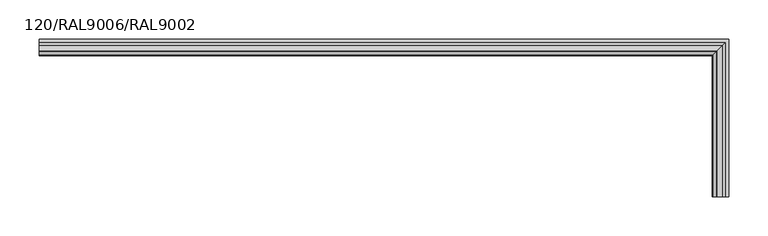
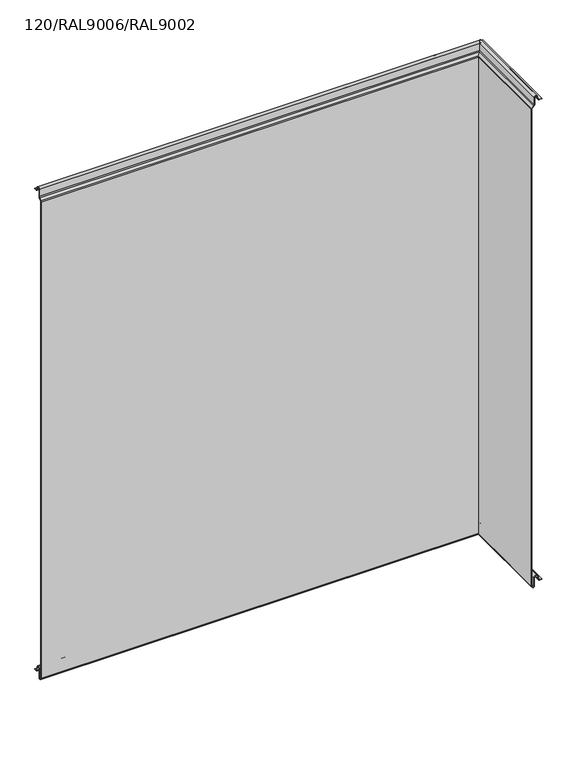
"""IFC4 building model written with IfcOpenShell, lengths in millimetres: plate geometry, TR_C_H_FHL_Corner_Tr_A : 120/RAL9006/RAL9002."""

from ifc_helpers import new_model, si_unit, frame, origin, place, context, project, spatial, polyline, circle_curve, ellipse_curve, source, transform, mapped, element, save
from ifc_brep_helpers import plane_surface, cylinder_surface, revolved_surface, advanced_brep


def plate_120_ral9006_ral9002_0d4cb285(model_context):
    return source(origin(), model_context, "Body", "AdvancedBrep", [
        advanced_brep(
        [(370.0, -300.0, 989.8218254), (370.0, -300.0, 0.4813708), (370.8054564, -300.0, -1.4631728), (372.6711418, -300.0, -3.3288582), (376.0, -300.0, -1.95), (376.0, -300.0, 15.65), (382.8475867, -300.0, 16.2490862), (384.1839721, -300.0, 8.6700685), (386.0551068, -300.0, 7.1), (391.0, -300.0, 7.1), (391.0, -300.0, 7.9), (386.0551068, -300.0, 7.9), (384.9718183, -300.0, 8.808987), (383.635433, -300.0, 16.3880048), (375.2, -300.0, 15.65), (375.2, -300.0, -1.95), (373.2368272, -300.0, -2.7631728), (371.3711418, -300.0, -0.8974874), (370.8, -300.0, 0.4813708), (370.8, -300.0, 989.8218254), (371.4443651, -300.0, 991.3774603), (375.8334524, -300.0, 995.7665476), (376.8, -300.0, 998.1), (376.8, -300.0, 1012.85), (381.662779, -300.0, 1013.275438), (382.4060919, -300.0, 1009.0599008), (386.8869672, -300.0, 1005.3), (391.0, -300.0, 1005.3), (391.0, -300.0, 1006.1), (386.8869672, -300.0, 1006.1), (383.1939382, -300.0, 1009.1988193), (382.4506252, -300.0, 1013.4143566), (376.0, -300.0, 1012.85), (376.0, -300.0, 998.1), (375.267767, -300.0, 996.332233), (370.8786797, -300.0, 991.9431458), (370.0, -120.0, 0.4813708), (370.0, -120.0, 989.8218254), (-490.0, -120.0, 989.8218254), (-490.0, -120.0, 0.4813708), (370.8, -119.2, 989.8218254), (370.8, -119.2, 0.4813708), (-490.0, -119.2, 0.4813708), (-490.0, -119.2, 989.8218254), (-490.0, -119.1213203, 991.9431458), (-490.0, -114.732233, 996.332233), (-490.0, -114.0, 998.1), (-490.0, -114.0, 1012.85), (-490.0, -107.5493748, 1013.4143566), (-490.0, -106.8060618, 1009.1988193), (-490.0, -103.1130328, 1006.1), (-490.0, -99.0, 1006.1), (-490.0, -99.0, 1005.3), (-490.0, -103.1130328, 1005.3), (-490.0, -107.5939081, 1009.0599008), (-490.0, -108.337221, 1013.275438), (-490.0, -113.2, 1012.85), (-490.0, -113.2, 998.1), (-490.0, -114.1665476, 995.7665476), (-490.0, -118.5556349, 991.3774603), (-490.0, -118.6288582, -0.8974874), (-490.0, -116.7631728, -2.7631728), (-490.0, -114.8, -1.95), (-490.0, -114.8, 15.65), (-490.0, -106.364567, 16.3880048), (-490.0, -105.0281817, 8.808987), (-490.0, -103.9448932, 7.9), (-490.0, -99.0, 7.9), (-490.0, -99.0, 7.1), (-490.0, -103.9448932, 7.1), (-490.0, -105.8160279, 8.6700685), (-490.0, -107.1524133, 16.2490862), (-490.0, -114.0, 15.65), (-490.0, -114.0, -1.95), (-490.0, -117.3288582, -3.3288582), (-490.0, -119.1945436, -1.4631728), (370.8054564, -119.1945436, -1.4631728), (372.6711418, -117.3288582, -3.3288582), (376.0, -114.0, -1.95), (376.0, -114.0, 15.65), (382.8475867, -107.1524133, 16.2490862), (384.1839721, -105.8160279, 8.6700685), (386.0551068, -103.9448932, 7.1), (391.0, -99.0, 7.1), (391.0, -99.0, 7.9), (386.0551068, -103.9448932, 7.9), (384.9718183, -105.0281817, 8.808987), (383.635433, -106.364567, 16.3880048), (375.2, -114.8, 15.65), (375.2, -114.8, -1.95), (373.2368272, -116.7631728, -2.7631728), (371.3711418, -118.6288582, -0.8974874), (371.4443651, -118.5556349, 991.3774603), (375.8334524, -114.1665476, 995.7665476), (376.8, -113.2, 998.1), (376.8, -113.2, 1012.85), (381.662779, -108.337221, 1013.275438), (382.4060919, -107.5939081, 1009.0599008), (386.8869672, -103.1130328, 1005.3), (391.0, -99.0, 1005.3), (391.0, -99.0, 1006.1), (386.8869672, -103.1130328, 1006.1), (383.1939382, -106.8060618, 1009.1988193), (382.4506252, -107.5493748, 1013.4143566), (376.0, -114.0, 1012.85), (376.0, -114.0, 998.1), (375.267767, -114.732233, 996.332233), (370.8786797, -119.1213203, 991.9431458)],
        [
            (0, 1),
            (1, 2, circle_curve(frame((372.75, -300.0, 0.4813708), z_axis=(0.0, -1.0, 0.0), x_axis=(-1.0, 0.0, 0.0)), 2.75)),
            (2, 3),
            (3, 4, circle_curve(frame((374.05, -300.0, -1.95), z_axis=(0.0, -1.0, 0.0), x_axis=(-1.0, 0.0, 0.0)), 1.95)),
            (4, 5),
            (5, 6, circle_curve(frame((379.45, -300.0, 15.65), z_axis=(0.0, 1.0, 0.0), x_axis=(-1.0, 0.0, 0.0)), 3.45)),
            (6, 7),
            (7, 8, circle_curve(frame((386.0551068, -300.0, 9.0), z_axis=(0.0, -1.0, 0.0), x_axis=(-1.0, 0.0, 0.0)), 1.9)),
            (8, 9),
            (9, 10),
            (10, 11),
            (11, 12, circle_curve(frame((386.0551068, -300.0, 9.0), z_axis=(0.0, 1.0, 0.0), x_axis=(-1.0, 0.0, 0.0)), 1.1)),
            (12, 13),
            (13, 14, circle_curve(frame((379.45, -300.0, 15.65), z_axis=(0.0, -1.0, 0.0), x_axis=(-1.0, 0.0, 0.0)), 4.25)),
            (14, 15),
            (15, 16, circle_curve(frame((374.05, -300.0, -1.95), z_axis=(0.0, 1.0, 0.0), x_axis=(-1.0, 0.0, 0.0)), 1.15)),
            (16, 17),
            (17, 18, circle_curve(frame((372.75, -300.0, 0.4813708), z_axis=(0.0, 1.0, 0.0), x_axis=(-1.0, 0.0, 0.0)), 1.95)),
            (18, 19),
            (19, 20, circle_curve(frame((373.0, -300.0, 989.8218254), z_axis=(0.0, 1.0, 0.0), x_axis=(-1.0, 0.0, 0.0)), 2.2)),
            (20, 21),
            (21, 22, circle_curve(frame((373.5, -300.0, 998.1), z_axis=(0.0, -1.0, 0.0), x_axis=(-1.0, 0.0, 0.0)), 3.3)),
            (22, 23),
            (23, 24, circle_curve(frame((379.25, -300.0, 1012.85), z_axis=(0.0, 1.0, 0.0), x_axis=(-1.0, 0.0, 0.0)), 2.45)),
            (24, 25),
            (25, 26, circle_curve(frame((386.8869672, -300.0, 1009.85), z_axis=(0.0, -1.0, 0.0), x_axis=(-1.0, 0.0, 0.0)), 4.55)),
            (26, 27),
            (27, 28),
            (28, 29),
            (29, 30, circle_curve(frame((386.8869672, -300.0, 1009.85), z_axis=(0.0, 1.0, 0.0), x_axis=(-1.0, 0.0, 0.0)), 3.75)),
            (30, 31),
            (31, 32, circle_curve(frame((379.25, -300.0, 1012.85), z_axis=(0.0, -1.0, 0.0), x_axis=(-1.0, 0.0, 0.0)), 3.25)),
            (32, 33),
            (33, 34, circle_curve(frame((373.5, -300.0, 998.1), z_axis=(0.0, 1.0, 0.0), x_axis=(-1.0, 0.0, 0.0)), 2.5)),
            (34, 35),
            (35, 0, circle_curve(frame((373.0, -300.0, 989.8218254), z_axis=(0.0, -1.0, 0.0), x_axis=(-1.0, 0.0, 0.0)), 3.0)),
            (36, 37),
            (37, 38),
            (38, 39),
            (39, 36),
            (40, 41),
            (41, 42),
            (42, 43),
            (43, 40),
            (38, 44, circle_curve(frame((-490.0, -117.0, 989.8218254), z_axis=(-1.0, 0.0, 0.0), x_axis=(0.0, -1.0, 0.0)), 3.0)),
            (44, 45),
            (45, 46, circle_curve(frame((-490.0, -116.5, 998.1), z_axis=(1.0, 0.0, 0.0), x_axis=(0.0, -1.0, 0.0)), 2.5)),
            (46, 47),
            (47, 48, circle_curve(frame((-490.0, -110.75, 1012.85), z_axis=(-1.0, 0.0, 0.0), x_axis=(0.0, -1.0, 0.0)), 3.25)),
            (48, 49),
            (49, 50, circle_curve(frame((-490.0, -103.1130328, 1009.85), z_axis=(1.0, 0.0, 0.0), x_axis=(0.0, -1.0, 0.0)), 3.75)),
            (50, 51),
            (51, 52),
            (52, 53),
            (53, 54, circle_curve(frame((-490.0, -103.1130328, 1009.85), z_axis=(-1.0, 0.0, 0.0), x_axis=(0.0, -1.0, 0.0)), 4.55)),
            (54, 55),
            (55, 56, circle_curve(frame((-490.0, -110.75, 1012.85), z_axis=(1.0, 0.0, 0.0), x_axis=(0.0, -1.0, 0.0)), 2.45)),
            (56, 57),
            (57, 58, circle_curve(frame((-490.0, -116.5, 998.1), z_axis=(-1.0, 0.0, 0.0), x_axis=(0.0, -1.0, 0.0)), 3.3)),
            (58, 59),
            (59, 43, circle_curve(frame((-490.0, -117.0, 989.8218254), z_axis=(1.0, 0.0, 0.0), x_axis=(0.0, -1.0, 0.0)), 2.2)),
            (42, 60, circle_curve(frame((-490.0, -117.25, 0.4813708), z_axis=(1.0, 0.0, 0.0), x_axis=(0.0, -1.0, 0.0)), 1.95)),
            (60, 61),
            (61, 62, circle_curve(frame((-490.0, -115.95, -1.95), z_axis=(1.0, 0.0, 0.0), x_axis=(0.0, -1.0, 0.0)), 1.15)),
            (62, 63),
            (63, 64, circle_curve(frame((-490.0, -110.55, 15.65), z_axis=(-1.0, 0.0, 0.0), x_axis=(0.0, -1.0, 0.0)), 4.25)),
            (64, 65),
            (65, 66, circle_curve(frame((-490.0, -103.9448932, 9.0), z_axis=(1.0, 0.0, 0.0), x_axis=(0.0, -1.0, 0.0)), 1.1)),
            (66, 67),
            (67, 68),
            (68, 69),
            (69, 70, circle_curve(frame((-490.0, -103.9448932, 9.0), z_axis=(-1.0, 0.0, 0.0), x_axis=(0.0, -1.0, 0.0)), 1.9)),
            (70, 71),
            (71, 72, circle_curve(frame((-490.0, -110.55, 15.65), z_axis=(1.0, 0.0, 0.0), x_axis=(0.0, -1.0, 0.0)), 3.45)),
            (72, 73),
            (73, 74, circle_curve(frame((-490.0, -115.95, -1.95), z_axis=(-1.0, 0.0, 0.0), x_axis=(0.0, -1.0, 0.0)), 1.95)),
            (74, 75),
            (75, 39, circle_curve(frame((-490.0, -117.25, 0.4813708), z_axis=(-1.0, 0.0, 0.0), x_axis=(0.0, -1.0, 0.0)), 2.75)),
            (0, 37),
            (36, 1),
            (18, 41),
            (40, 19),
            (36, 76, ellipse_curve(frame((372.75, -117.25, 0.4813708), z_axis=(0.7071067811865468, -0.7071067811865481, 0.0), x_axis=(-0.7071067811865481, -0.7071067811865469, 0.0)), 3.8890873, 2.75)),
            (76, 2),
            (76, 77),
            (77, 3),
            (77, 78, ellipse_curve(frame((374.05, -115.95, -1.95), z_axis=(0.7071067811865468, -0.7071067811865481, 0.0), x_axis=(-0.7071067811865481, -0.7071067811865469, 0.0)), 2.7577164, 1.95)),
            (78, 4),
            (78, 79),
            (79, 5),
            (79, 80, ellipse_curve(frame((379.45, -110.55, 15.65), z_axis=(-0.7071067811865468, 0.7071067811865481, 0.0), x_axis=(0.7071067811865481, 0.7071067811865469, 0.0)), 4.8790368, 3.45)),
            (80, 6),
            (80, 81),
            (81, 7),
            (81, 82, ellipse_curve(frame((386.0551068, -103.9448932, 9.0), z_axis=(0.7071067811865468, -0.7071067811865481, 0.0), x_axis=(-0.7071067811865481, -0.7071067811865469, 0.0)), 2.6870058, 1.9)),
            (82, 8),
            (82, 69),
            (68, 83),
            (83, 9),
            (83, 84),
            (84, 10),
            (84, 67),
            (66, 85),
            (85, 11),
            (85, 86, ellipse_curve(frame((386.0551068, -103.9448932, 9.0), z_axis=(-0.7071067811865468, 0.7071067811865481, 0.0), x_axis=(0.7071067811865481, 0.7071067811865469, 0.0)), 1.5556349, 1.1)),
            (86, 12),
            (86, 87),
            (87, 13),
            (87, 88, ellipse_curve(frame((379.45, -110.55, 15.65), z_axis=(0.7071067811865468, -0.7071067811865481, 0.0), x_axis=(-0.7071067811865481, -0.7071067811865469, 0.0)), 6.0104076, 4.25)),
            (88, 14),
            (88, 89),
            (89, 15),
            (89, 90, ellipse_curve(frame((374.05, -115.95, -1.95), z_axis=(-0.7071067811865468, 0.7071067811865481, 0.0), x_axis=(0.7071067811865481, 0.7071067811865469, 0.0)), 1.6263456, 1.15)),
            (90, 16),
            (90, 91),
            (91, 17),
            (91, 41, ellipse_curve(frame((372.75, -117.25, 0.4813708), z_axis=(-0.7071067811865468, 0.7071067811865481, 0.0), x_axis=(0.7071067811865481, 0.7071067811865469, 0.0)), 2.7577164, 1.95)),
            (40, 92, ellipse_curve(frame((373.0, -117.0, 989.8218254), z_axis=(-0.7071067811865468, 0.7071067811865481, 0.0), x_axis=(0.7071067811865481, 0.7071067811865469, 0.0)), 3.1112698, 2.2)),
            (92, 20),
            (92, 93),
            (93, 21),
            (93, 94, ellipse_curve(frame((373.5, -116.5, 998.1), z_axis=(0.7071067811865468, -0.7071067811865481, 0.0), x_axis=(-0.7071067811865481, -0.7071067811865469, 0.0)), 4.6669048, 3.3)),
            (94, 22),
            (94, 95),
            (95, 23),
            (95, 96, ellipse_curve(frame((379.25, -110.75, 1012.85), z_axis=(-0.7071067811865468, 0.7071067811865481, 0.0), x_axis=(0.7071067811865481, 0.7071067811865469, 0.0)), 3.4648232, 2.45)),
            (96, 24),
            (96, 97),
            (97, 25),
            (97, 98, ellipse_curve(frame((386.8869672, -103.1130328, 1009.85), z_axis=(0.7071067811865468, -0.7071067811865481, 0.0), x_axis=(-0.7071067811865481, -0.7071067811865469, 0.0)), 6.4346717, 4.55)),
            (98, 26),
            (98, 53),
            (52, 99),
            (99, 27),
            (99, 100),
            (100, 28),
            (100, 51),
            (50, 101),
            (101, 29),
            (101, 102, ellipse_curve(frame((386.8869672, -103.1130328, 1009.85), z_axis=(-0.7071067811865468, 0.7071067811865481, 0.0), x_axis=(0.7071067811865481, 0.7071067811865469, 0.0)), 5.3033009, 3.75)),
            (102, 30),
            (102, 103),
            (103, 31),
            (103, 104, ellipse_curve(frame((379.25, -110.75, 1012.85), z_axis=(0.7071067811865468, -0.7071067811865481, 0.0), x_axis=(-0.7071067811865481, -0.7071067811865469, 0.0)), 4.5961941, 3.25)),
            (104, 32),
            (104, 105),
            (105, 33),
            (105, 106, ellipse_curve(frame((373.5, -116.5, 998.1), z_axis=(-0.7071067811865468, 0.7071067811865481, 0.0), x_axis=(0.7071067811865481, 0.7071067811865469, 0.0)), 3.5355339, 2.5)),
            (106, 34),
            (106, 107),
            (107, 35),
            (107, 37, ellipse_curve(frame((373.0, -117.0, 989.8218254), z_axis=(0.7071067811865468, -0.7071067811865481, 0.0), x_axis=(-0.7071067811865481, -0.7071067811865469, 0.0)), 4.2426407, 3.0)),
            (75, 76),
            (74, 77),
            (73, 78),
            (72, 79),
            (71, 80),
            (70, 81),
            (65, 86),
            (64, 87),
            (63, 88),
            (62, 89),
            (61, 90),
            (60, 91),
            (59, 92),
            (58, 93),
            (57, 94),
            (56, 95),
            (55, 96),
            (54, 97),
            (49, 102),
            (48, 103),
            (47, 104),
            (46, 105),
            (45, 106),
            (44, 107),
        ],
        [
            plane_surface(frame((490.0, -300.0, 0.0), z_axis=(0.0, -1.0, 0.0), x_axis=(0.0, 0.0, 1.0))),
            plane_surface(frame((370.0, -120.0, 989.8218254), z_axis=(0.0, -1.0, 0.0), x_axis=(-1.0, 0.0, 0.0))),
            plane_surface(frame((370.8, -119.2, 0.4813708), z_axis=(0.0, 1.0, 0.0), x_axis=(-1.0, 0.0, 0.0))),
            plane_surface(frame((-490.0, 0.0, 0.0), z_axis=(-1.0, 0.0, 0.0), x_axis=(0.0, 0.0, 1.0))),
            plane_surface(frame((370.0, -300.0, 989.8218254), z_axis=(-1.0, 0.0, 0.0), x_axis=(0.0, 1.0, 0.0))),
            plane_surface(frame((370.8, -300.0, 0.4813708), z_axis=(1.0, 0.0, 0.0), x_axis=(0.0, 1.0, 0.0))),
            cylinder_surface(frame((372.75, -300.0, 0.4813708), z_axis=(0.0, -1.0, 0.0), x_axis=(-1.0, 0.0, 0.0)), 2.75),
            plane_surface(frame((370.8054564, -300.0, -1.4631728), z_axis=(-0.7071067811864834, 0.0, -0.7071067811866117), x_axis=(0.0, 1.0, 0.0))),
            cylinder_surface(frame((374.05, -300.0, -1.95), z_axis=(0.0, -1.0, 0.0), x_axis=(-1.0, 0.0, 0.0)), 1.95),
            plane_surface(frame((376.0, -300.0, -1.95), z_axis=(1.0, 0.0, 0.0), x_axis=(0.0, 1.0, 0.0))),
            revolved_surface(polyline([(376.0, -107.09999999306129, 15.65), (376.0, -300.0, 15.65)]), (379.45, -300.0, 15.65), (0.0, 1.0, 0.0)),
            plane_surface(frame((382.8475867, -300.0, 16.2490862), z_axis=(-0.9848077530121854, 0.0, -0.1736481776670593), x_axis=(0.0, 1.0, 0.0))),
            cylinder_surface(frame((386.0551068, -300.0, 9.0), z_axis=(0.0, -1.0, 0.0), x_axis=(-1.0, 0.0, 0.0)), 1.9),
            plane_surface(frame((386.0551068, -300.0, 7.1), z_axis=(0.0, 0.0, -1.0), x_axis=(0.0, 1.0, 0.0))),
            plane_surface(frame((391.0, -300.0, 7.1), z_axis=(1.0, 0.0, 0.0), x_axis=(0.0, 1.0, 0.0))),
            plane_surface(frame((391.0, -300.0, 7.9), z_axis=(0.0, 0.0, 1.0), x_axis=(0.0, 1.0, 0.0))),
            revolved_surface(polyline([(384.95510679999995, -102.84489321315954, 9.0), (384.95510679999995, -300.0, 9.0)]), (386.0551068, -300.0, 9.0), (0.0, 1.0, 0.0)),
            plane_surface(frame((384.9718183, -300.0, 8.808987), z_axis=(0.9848077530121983, 0.0, 0.17364817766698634), x_axis=(0.0, 1.0, 0.0))),
            cylinder_surface(frame((379.45, -300.0, 15.65), z_axis=(0.0, -1.0, 0.0), x_axis=(-1.0, 0.0, 0.0)), 4.25),
            plane_surface(frame((375.2, -300.0, 15.65), z_axis=(-1.0, 0.0, 0.0), x_axis=(0.0, 1.0, 0.0))),
            revolved_surface(polyline([(372.90000000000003, -114.79999999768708, -1.95), (372.90000000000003, -300.0, -1.95)]), (374.05, -300.0, -1.95), (0.0, 1.0, 0.0)),
            plane_surface(frame((373.2368272, -300.0, -2.7631728), z_axis=(0.7071067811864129, 0.0, 0.7071067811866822), x_axis=(0.0, 1.0, 0.0))),
            revolved_surface(polyline([(370.8, -115.30000003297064, 0.4813708), (370.8, -300.0, 0.4813708)]), (372.75, -300.0, 0.4813708), (0.0, 1.0, 0.0)),
            revolved_surface(polyline([(370.8, -114.80000002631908, 989.8218254), (370.8, -300.0, 989.8218254)]), (373.0, -300.0, 989.8218254), (0.0, 1.0, 0.0)),
            plane_surface(frame((371.4443651, -300.0, 991.3774603), z_axis=(0.7071067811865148, 0.0, -0.7071067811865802), x_axis=(0.0, 1.0, 0.0))),
            cylinder_surface(frame((373.5, -300.0, 998.1), z_axis=(0.0, -1.0, 0.0), x_axis=(-1.0, 0.0, 0.0)), 3.3),
            plane_surface(frame((376.8, -300.0, 998.1), z_axis=(1.0, 0.0, 0.0), x_axis=(0.0, 1.0, 0.0))),
            revolved_surface(polyline([(376.8, -108.30000001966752, 1012.85), (376.8, -300.0, 1012.85)]), (379.25, -300.0, 1012.85), (0.0, 1.0, 0.0)),
            plane_surface(frame((381.662779, -300.0, 1013.275438), z_axis=(-0.9848077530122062, 0.0, -0.17364817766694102), x_axis=(0.0, 1.0, 0.0))),
            cylinder_surface(frame((386.8869672, -300.0, 1009.85), z_axis=(0.0, -1.0, 0.0), x_axis=(-1.0, 0.0, 0.0)), 4.55),
            plane_surface(frame((386.8869672, -300.0, 1005.3), z_axis=(0.0, 0.0, -1.0), x_axis=(0.0, 1.0, 0.0))),
            plane_surface(frame((391.0, -300.0, 1005.3), z_axis=(1.0, 0.0, 0.0), x_axis=(0.0, 1.0, 0.0))),
            plane_surface(frame((391.0, -300.0, 1006.1), z_axis=(0.0, 0.0, 1.0), x_axis=(0.0, 1.0, 0.0))),
            revolved_surface(polyline([(383.1369672, -99.36303277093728, 1009.85), (383.1369672, -300.0, 1009.85)]), (386.8869672, -300.0, 1009.85), (0.0, 1.0, 0.0)),
            plane_surface(frame((383.1939382, -300.0, 1009.1988193), z_axis=(0.9848077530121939, 0.0, 0.1736481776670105), x_axis=(0.0, 1.0, 0.0))),
            cylinder_surface(frame((379.25, -300.0, 1012.85), z_axis=(0.0, -1.0, 0.0), x_axis=(-1.0, 0.0, 0.0)), 3.25),
            plane_surface(frame((376.0, -300.0, 1012.85), z_axis=(-1.0, 0.0, 0.0), x_axis=(0.0, 1.0, 0.0))),
            revolved_surface(polyline([(371.0, -114.0, 998.1), (371.0, -300.0, 998.1)]), (373.5, -300.0, 998.1), (0.0, 1.0, 0.0)),
            plane_surface(frame((375.267767, -300.0, 996.332233), z_axis=(-0.7071067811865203, 0.0, 0.7071067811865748), x_axis=(0.0, 1.0, 0.0))),
            cylinder_surface(frame((373.0, -300.0, 989.8218254), z_axis=(0.0, -1.0, 0.0), x_axis=(-1.0, 0.0, 0.0)), 3.0),
            cylinder_surface(frame((490.0, -117.25, 0.4813708), z_axis=(1.0, 0.0, 0.0), x_axis=(0.0, -1.0, 0.0)), 2.75),
            plane_surface(frame((370.8054564, -119.1945436, -1.4631728), z_axis=(0.0, -0.7071067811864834, -0.7071067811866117), x_axis=(-1.0, 0.0, 0.0))),
            cylinder_surface(frame((490.0, -115.95, -1.95), z_axis=(1.0, 0.0, 0.0), x_axis=(0.0, -1.0, 0.0)), 1.95),
            plane_surface(frame((376.0, -114.0, -1.95), z_axis=(0.0, 1.0, 0.0), x_axis=(-1.0, 0.0, 0.0))),
            revolved_surface(polyline([(-490.0, -114.0, 15.65), (382.90000000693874, -114.0, 15.65)]), (490.0, -110.55, 15.65), (-1.0, 0.0, 0.0)),
            plane_surface(frame((382.8475867, -107.1524133, 16.2490862), z_axis=(0.0, -0.9848077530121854, -0.1736481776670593), x_axis=(-1.0, 0.0, 0.0))),
            cylinder_surface(frame((490.0, -103.9448932, 9.0), z_axis=(1.0, 0.0, 0.0), x_axis=(0.0, -1.0, 0.0)), 1.9),
            plane_surface(frame((391.0, -99.0, 7.1), z_axis=(0.0, 1.0, 0.0), x_axis=(-1.0, 0.0, 0.0))),
            revolved_surface(polyline([(-490.0, -105.04489319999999, 9.0), (387.1551067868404, -105.04489319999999, 9.0)]), (490.0, -103.9448932, 9.0), (-1.0, 0.0, 0.0)),
            plane_surface(frame((384.9718183, -105.0281817, 8.808987), z_axis=(0.0, 0.9848077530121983, 0.17364817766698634), x_axis=(-1.0, 0.0, 0.0))),
            cylinder_surface(frame((490.0, -110.55, 15.65), z_axis=(1.0, 0.0, 0.0), x_axis=(0.0, -1.0, 0.0)), 4.25),
            plane_surface(frame((375.2, -114.8, 15.65), z_axis=(0.0, -1.0, 0.0), x_axis=(-1.0, 0.0, 0.0))),
            revolved_surface(polyline([(-490.0, -117.10000000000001, -1.95), (375.2000000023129, -117.10000000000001, -1.95)]), (490.0, -115.95, -1.95), (-1.0, 0.0, 0.0)),
            plane_surface(frame((373.2368272, -116.7631728, -2.7631728), z_axis=(0.0, 0.7071067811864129, 0.7071067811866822), x_axis=(-1.0, 0.0, 0.0))),
            revolved_surface(polyline([(-490.0, -119.2, 0.4813708), (374.6999999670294, -119.2, 0.4813708)]), (490.0, -117.25, 0.4813708), (-1.0, 0.0, 0.0)),
            revolved_surface(polyline([(-490.0, -119.2, 989.8218254), (375.1999999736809, -119.2, 989.8218254)]), (490.0, -117.0, 989.8218254), (-1.0, 0.0, 0.0)),
            plane_surface(frame((371.4443651, -118.5556349, 991.3774603), z_axis=(0.0, 0.7071067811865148, -0.7071067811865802), x_axis=(-1.0, 0.0, 0.0))),
            cylinder_surface(frame((490.0, -116.5, 998.1), z_axis=(1.0, 0.0, 0.0), x_axis=(0.0, -1.0, 0.0)), 3.3),
            plane_surface(frame((376.8, -113.2, 998.1), z_axis=(0.0, 1.0, 0.0), x_axis=(-1.0, 0.0, 0.0))),
            revolved_surface(polyline([(-490.0, -113.2, 1012.85), (381.69999998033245, -113.2, 1012.85)]), (490.0, -110.75, 1012.85), (-1.0, 0.0, 0.0)),
            plane_surface(frame((381.662779, -108.337221, 1013.275438), z_axis=(0.0, -0.9848077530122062, -0.17364817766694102), x_axis=(-1.0, 0.0, 0.0))),
            cylinder_surface(frame((490.0, -103.1130328, 1009.85), z_axis=(1.0, 0.0, 0.0), x_axis=(0.0, -1.0, 0.0)), 4.55),
            plane_surface(frame((391.0, -99.0, 1005.3), z_axis=(0.0, 1.0, 0.0), x_axis=(-1.0, 0.0, 0.0))),
            revolved_surface(polyline([(-490.0, -106.8630328, 1009.85), (390.63696722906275, -106.8630328, 1009.85)]), (490.0, -103.1130328, 1009.85), (-1.0, 0.0, 0.0)),
            plane_surface(frame((383.1939382, -106.8060618, 1009.1988193), z_axis=(0.0, 0.9848077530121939, 0.1736481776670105), x_axis=(-1.0, 0.0, 0.0))),
            cylinder_surface(frame((490.0, -110.75, 1012.85), z_axis=(1.0, 0.0, 0.0), x_axis=(0.0, -1.0, 0.0)), 3.25),
            plane_surface(frame((376.0, -114.0, 1012.85), z_axis=(0.0, -1.0, 0.0), x_axis=(-1.0, 0.0, 0.0))),
            revolved_surface(polyline([(-490.0, -119.0, 998.1), (376.0, -119.0, 998.1)]), (490.0, -116.5, 998.1), (-1.0, 0.0, 0.0)),
            plane_surface(frame((375.267767, -114.732233, 996.332233), z_axis=(0.0, -0.7071067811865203, 0.7071067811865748), x_axis=(-1.0, 0.0, 0.0))),
            cylinder_surface(frame((490.0, -117.0, 989.8218254), z_axis=(1.0, 0.0, 0.0), x_axis=(0.0, -1.0, 0.0)), 3.0),
        ],
        [
            (0, [[1, 2, 3, 4, 5, 6, 7, 8, 9, 10, 11, 12, 13, 14, 15, 16, 17, 18, 19, 20, 21, 22, 23, 24, 25, 26, 27, 28, 29, 30, 31, 32, 33, 34, 35, 36]]),
            (1, [[37, 38, 39, 40]]),
            (2, [[41, 42, 43, 44]]),
            (3, [[45, 46, 47, 48, 49, 50, 51, 52, 53, 54, 55, 56, 57, 58, 59, 60, 61, -43, 62, 63, 64, 65, 66, 67, 68, 69, 70, 71, 72, 73, 74, 75, 76, 77, 78, -39]]),
            (4, [[-1, 79, -37, 80]]),
            (5, [[-19, 81, -41, 82]]),
            (6, [[-2, -80, 83, 84]]),
            (7, [[-3, -84, 85, 86]]),
            (8, [[-4, -86, 87, 88]]),
            (9, [[-5, -88, 89, 90]]),
            (10, [[-6, -90, 91, 92]]),
            (11, [[-7, -92, 93, 94]]),
            (12, [[-8, -94, 95, 96]]),
            (13, [[-9, -96, 97, -71, 98, 99]]),
            (14, [[-10, -99, 100, 101]]),
            (15, [[-11, -101, 102, -69, 103, 104]]),
            (16, [[-12, -104, 105, 106]]),
            (17, [[-13, -106, 107, 108]]),
            (18, [[-14, -108, 109, 110]]),
            (19, [[-15, -110, 111, 112]]),
            (20, [[-16, -112, 113, 114]]),
            (21, [[-17, -114, 115, 116]]),
            (22, [[-18, -116, 117, -81]]),
            (23, [[-20, -82, 118, 119]]),
            (24, [[-21, -119, 120, 121]]),
            (25, [[-22, -121, 122, 123]]),
            (26, [[-23, -123, 124, 125]]),
            (27, [[-24, -125, 126, 127]]),
            (28, [[-25, -127, 128, 129]]),
            (29, [[-26, -129, 130, 131]]),
            (30, [[-27, -131, 132, -54, 133, 134]]),
            (31, [[-28, -134, 135, 136]]),
            (32, [[-29, -136, 137, -52, 138, 139]]),
            (33, [[-30, -139, 140, 141]]),
            (34, [[-31, -141, 142, 143]]),
            (35, [[-32, -143, 144, 145]]),
            (36, [[-33, -145, 146, 147]]),
            (37, [[-34, -147, 148, 149]]),
            (38, [[-35, -149, 150, 151]]),
            (39, [[-36, -151, 152, -79]]),
            (40, [[-83, -40, -78, 153]]),
            (41, [[-85, -153, -77, 154]]),
            (42, [[-87, -154, -76, 155]]),
            (43, [[-89, -155, -75, 156]]),
            (44, [[-91, -156, -74, 157]]),
            (45, [[-93, -157, -73, 158]]),
            (46, [[-95, -158, -72, -97]]),
            (47, [[-100, -98, -70, -102]]),
            (48, [[-105, -103, -68, 159]]),
            (49, [[-107, -159, -67, 160]]),
            (50, [[-109, -160, -66, 161]]),
            (51, [[-111, -161, -65, 162]]),
            (52, [[-113, -162, -64, 163]]),
            (53, [[-115, -163, -63, 164]]),
            (54, [[-117, -164, -62, -42]]),
            (55, [[-118, -44, -61, 165]]),
            (56, [[-120, -165, -60, 166]]),
            (57, [[-122, -166, -59, 167]]),
            (58, [[-124, -167, -58, 168]]),
            (59, [[-126, -168, -57, 169]]),
            (60, [[-128, -169, -56, 170]]),
            (61, [[-130, -170, -55, -132]]),
            (62, [[-135, -133, -53, -137]]),
            (63, [[-140, -138, -51, 171]]),
            (64, [[-142, -171, -50, 172]]),
            (65, [[-144, -172, -49, 173]]),
            (66, [[-146, -173, -48, 174]]),
            (67, [[-148, -174, -47, 175]]),
            (68, [[-150, -175, -46, 176]]),
            (69, [[-152, -176, -45, -38]]),
        ],
    ),
    ])


if __name__ == "__main__":
    model = new_model("IFC4")
    model_context = context("Model", 3, world=origin())
    ifc_project = project(units=[si_unit("LENGTHUNIT", "METRE", prefix="MILLI")], contexts=[model_context])
    site = spatial("IfcSite", under=ifc_project)
    building = spatial("IfcBuilding", under=site)
    placement = place(None, origin())
    plate_120_ral9006_ral9002_shape = plate_120_ral9006_ral9002_0d4cb285(model_context)
    element("IfcPlate", 1, ObjectType="TR_C_H_FHL_Corner_Tr_A : 120/RAL9006/RAL9002", at=placement, inside=building, context=model_context, shape_type="MappedRepresentation", body=[
        mapped(plate_120_ral9006_ral9002_shape, transform((0.0, 0.0, 0.0), x_axis=(1.0, 0.0, 0.0), y_axis=(0.0, 1.0, 0.0), z_axis=(0.0, 0.0, 1.0))),
    ])
    save(model, "model.ifc")
